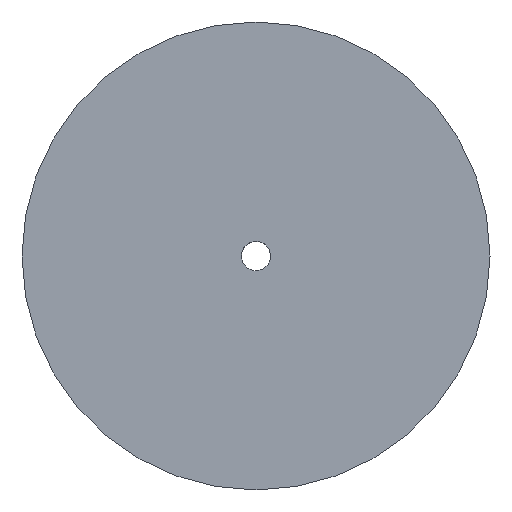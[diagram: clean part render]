
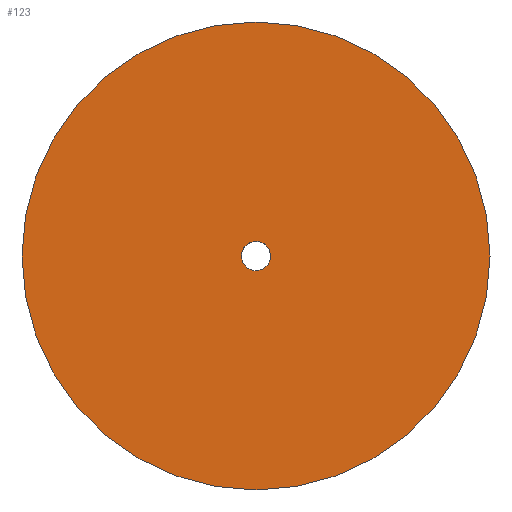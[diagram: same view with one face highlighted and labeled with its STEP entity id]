
A CAD part, top view. The second image highlights one B-rep face of the part: STEP entity #123.
In plain terms, the highlighted planar face has unit normal (0, 0, 1).
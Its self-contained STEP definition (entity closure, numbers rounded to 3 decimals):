
#62=CARTESIAN_POINT('Vertex',(-2.852,1.558,0.)) ;
#76=CARTESIAN_POINT('Vertex',(2.852,-1.558,0.)) ;
#79=CARTESIAN_POINT('Axis2P3D Location',(0.,0.,0.)) ;
#91=CARTESIAN_POINT('Axis2P3D Location',(0.,0.,0.)) ;
#96=CARTESIAN_POINT('Axis2P3D Location',(0.,0.,0.)) ;
#100=CARTESIAN_POINT('Vertex',(52.,0.,0.)) ;
#102=CARTESIAN_POINT('Vertex',(-52.,0.,0.)) ;
#105=CARTESIAN_POINT('Axis2P3D Location',(0.,0.,0.)) ;
#114=CARTESIAN_POINT('Axis2P3D Location',(0.,0.,0.)) ;
#80=DIRECTION('Axis2P3D Direction',(0.,-0.,-1.)) ;
#92=DIRECTION('Axis2P3D Direction',(0.,0.,1.)) ;
#93=DIRECTION('Axis2P3D XDirection',(1.,0.,0.)) ;
#97=DIRECTION('Axis2P3D Direction',(0.,0.,1.)) ;
#106=DIRECTION('Axis2P3D Direction',(0.,0.,1.)) ;
#115=DIRECTION('Axis2P3D Direction',(0.,0.,1.)) ;
#81=AXIS2_PLACEMENT_3D('Circle Axis2P3D',#79,#80,$) ;
#94=AXIS2_PLACEMENT_3D('Plane Axis2P3D',#91,#92,#93) ;
#98=AXIS2_PLACEMENT_3D('Circle Axis2P3D',#96,#97,$) ;
#107=AXIS2_PLACEMENT_3D('Circle Axis2P3D',#105,#106,$) ;
#116=AXIS2_PLACEMENT_3D('Circle Axis2P3D',#114,#115,$) ;
#111=ORIENTED_EDGE('',*,*,#104,.F.) ;
#112=ORIENTED_EDGE('',*,*,#109,.F.) ;
#120=ORIENTED_EDGE('',*,*,#118,.F.) ;
#121=ORIENTED_EDGE('',*,*,#83,.F.) ;
#122=FACE_BOUND('',#119,.T.) ;
#123=ADVANCED_FACE('PartBody',(#113,#122),#95,.T.) ;
#82=CIRCLE('generated circle',#81,3.25) ;
#99=CIRCLE('generated circle',#98,52.) ;
#108=CIRCLE('generated circle',#107,52.) ;
#117=CIRCLE('generated circle',#116,3.25) ;
#83=EDGE_CURVE('',#77,#63,#82,.F.) ;
#104=EDGE_CURVE('',#101,#103,#99,.F.) ;
#109=EDGE_CURVE('',#103,#101,#108,.F.) ;
#118=EDGE_CURVE('',#63,#77,#117,.T.) ;
#110=EDGE_LOOP('',(#111,#112)) ;
#119=EDGE_LOOP('',(#120,#121)) ;
#113=FACE_OUTER_BOUND('',#110,.T.) ;
#95=PLANE('',#94) ;
#63=VERTEX_POINT('',#62) ;
#77=VERTEX_POINT('',#76) ;
#101=VERTEX_POINT('',#100) ;
#103=VERTEX_POINT('',#102) ;
